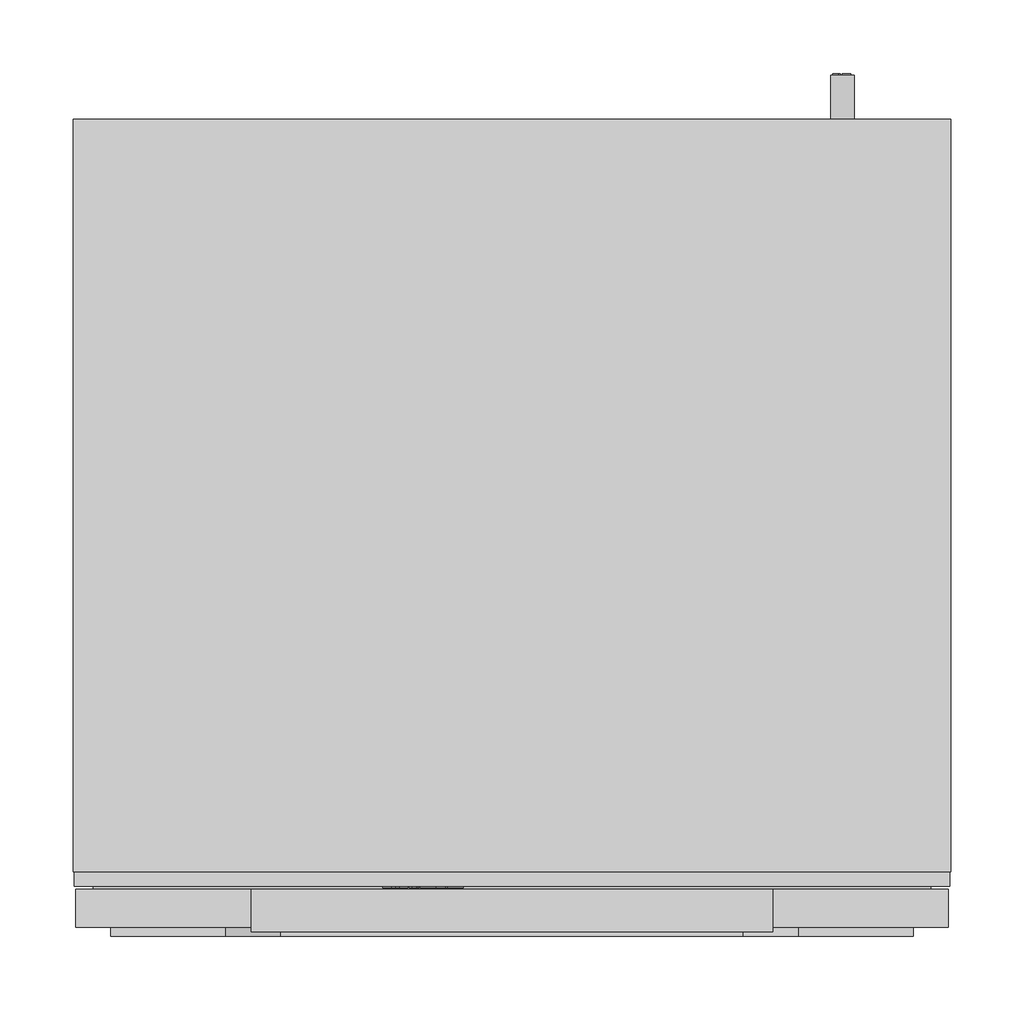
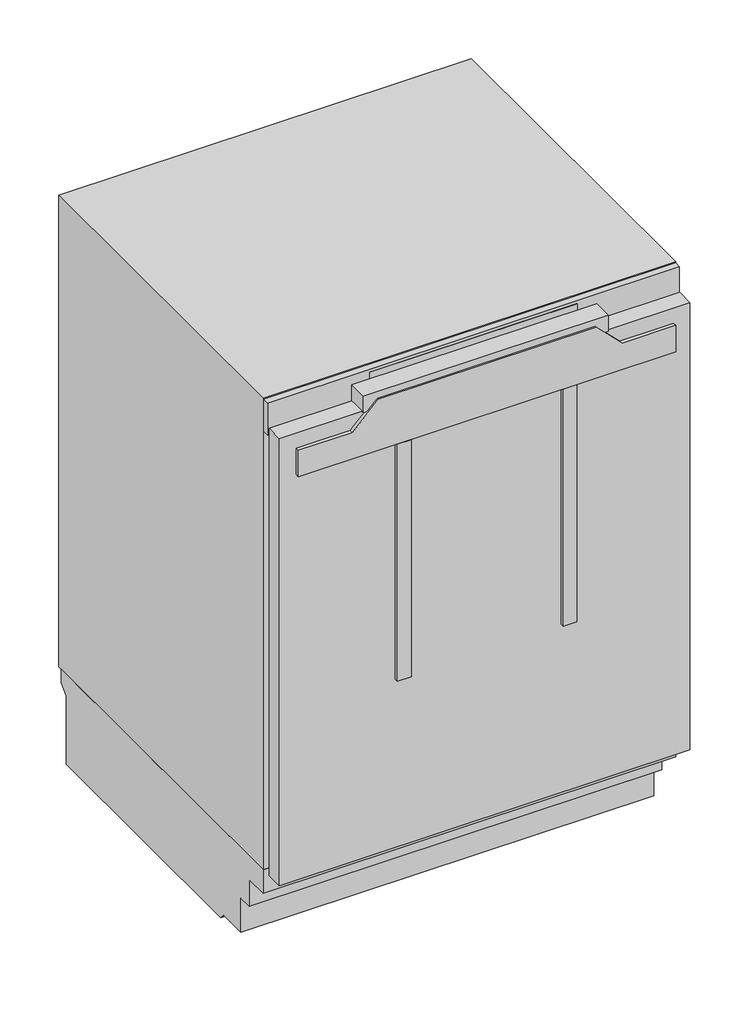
# Not in any storey: 1 proxy.
"""IFC4 building model written with IfcOpenShell, lengths in millimetres."""

import ifcopenshell
import ifcopenshell.guid

model = None  # the IFC model being written
_history = None  # IfcOwnerHistory: only IFC2X3 demands one
_inside = {}  # id of a spatial element -> (the spatial element, [elements in it])
_under = {}  # id of a project, library or spatial element -> (it, [spatial elements below it])
_declared = {}  # id of a project -> (the project, [libraries it declares])
_typed = {}  # id of a type object -> (the type object, [elements of that type])
_made_of = {}  # id of a material, layer set ... -> (it, [elements and type objects made of it])


def new_model(schema):
    """Start an empty IFC model of exactly this schema.

    Asked for "IFC4X3", IfcOpenShell would pick the latest addendum, in which some entities
    have other attributes; the version numbers below select the first issue.
    IFC2X3 requires an IfcOwnerHistory on every rooted entity: one is made here for all.
    """
    global model, _history
    if schema == "IFC4X3":
        model = ifcopenshell.file(schema_version=(4, 3, 0, 0))
    else:
        model = ifcopenshell.file(schema=schema)
    _inside.clear()
    _under.clear()
    _declared.clear()
    _typed.clear()
    _made_of.clear()
    _history = None
    if model.schema == "IFC2X3":
        org = make("IfcOrganization", Name="unknown")
        user = make(
            "IfcPersonAndOrganization",
            ThePerson=make("IfcPerson", FamilyName="unknown"),
            TheOrganization=org,
        )
        app = make(
            "IfcApplication",
            ApplicationDeveloper=org,
            Version="unknown",
            ApplicationFullName="unknown",
            ApplicationIdentifier="unknown",
        )
        _history = make(
            "IfcOwnerHistory",
            OwningUser=user,
            OwningApplication=app,
            ChangeAction="ADDED",
            CreationDate=0,
        )
    return model


def make(cls, **values):
    """One entity of the class cls with the attributes given. An attribute that is None is left unset."""
    return model.create_entity(
        cls, **{name: value for name, value in values.items() if value is not None}
    )


def rooted(cls, **values):
    """An entity with a GlobalId (a new one), such as an element, a storey or a relation."""
    return make(cls, GlobalId=ifcopenshell.guid.new(), OwnerHistory=_history, **values)


def si_unit(unit_type, name, prefix=None):
    """IfcSIUnit, for example si_unit("LENGTHUNIT", "METRE", prefix="MILLI")."""
    return make("IfcSIUnit", UnitType=unit_type, Prefix=prefix, Name=name)


def assignment(units):
    """IfcUnitAssignment: the units of a project."""
    return None if units is None else make("IfcUnitAssignment", Units=units)


def point(xyz):
    """IfcCartesianPoint."""
    return None if xyz is None else make("IfcCartesianPoint", Coordinates=xyz)


def direction(xyz):
    """IfcDirection."""
    return None if xyz is None else make("IfcDirection", DirectionRatios=xyz)


def frame(location, z_axis=None, x_axis=None):
    """IfcAxis2Placement3D, a coordinate frame: its origin and axes. An axis left out is left unset."""
    return make(
        "IfcAxis2Placement3D",
        Location=point(location),
        Axis=direction(z_axis),
        RefDirection=direction(x_axis),
    )


def frame_2d(location, x_axis=None):
    """IfcAxis2Placement2D, a coordinate frame in the plane: its origin and x axis."""
    return make(
        "IfcAxis2Placement2D", Location=point(location), RefDirection=direction(x_axis)
    )


def origin():
    """The frame at (0, 0, 0) with its axes left unset."""
    return frame((0.0, 0.0, 0.0))


def origin_with_axes():
    """The frame at (0, 0, 0) with the z axis (0, 0, 1) and the x axis (1, 0, 0) written out."""
    return frame((0.0, 0.0, 0.0), z_axis=(0.0, 0.0, 1.0), x_axis=(1.0, 0.0, 0.0))


def place(relative_to, where):
    """IfcLocalPlacement: puts the frame where relative to a parent placement (None: the world)."""
    return make(
        "IfcLocalPlacement", PlacementRelTo=relative_to, RelativePlacement=where
    )


def context(
    kind, dimensions, precision=None, world=None, true_north=None, identifier=None
):
    """IfcGeometricRepresentationContext, for example the 3D "Model" context."""
    return make(
        "IfcGeometricRepresentationContext",
        ContextIdentifier=identifier,
        ContextType=kind,
        CoordinateSpaceDimension=dimensions,
        Precision=precision,
        WorldCoordinateSystem=world,
        TrueNorth=true_north,
    )


def project(units=None, contexts=None):
    """IfcProject with its units and contexts."""
    return rooted(
        "IfcProject",
        Name="project",
        RepresentationContexts=contexts,
        UnitsInContext=assignment(units),
    )


def spatial(cls, under=None, at=None, **own):
    """A site, building, storey or space (cls), placed at a placement, below another one or the project."""
    s = rooted(cls, ObjectPlacement=at, **own)
    if under is not None:
        _under.setdefault(under.id(), (under, []))[1].append(s)
    return s


def polyline(points):
    """IfcPolyline through the points."""
    return make("IfcPolyline", Points=[point(p) for p in points])


def circle_curve(where, radius):
    """IfcCircle in the frame where."""
    return make("IfcCircle", Position=where, Radius=radius)


def ellipse_curve(where, semi_axis1, semi_axis2):
    """IfcEllipse in the frame where."""
    return make(
        "IfcEllipse", Position=where, SemiAxis1=semi_axis1, SemiAxis2=semi_axis2
    )


def trimmed(basis, trim1, trim2, sense, master):
    """IfcTrimmedCurve: the piece of a basis curve between two trims."""
    return make(
        "IfcTrimmedCurve",
        BasisCurve=basis,
        Trim1=trim1,
        Trim2=trim2,
        SenseAgreement=sense,
        MasterRepresentation=master,
    )


def segment(curve, same_sense, transition):
    """IfcCompositeCurveSegment."""
    return make(
        "IfcCompositeCurveSegment",
        Transition=transition,
        SameSense=same_sense,
        ParentCurve=curve,
    )


def composite_curve(segments, self_intersect=None):
    """IfcCompositeCurve: segments joined end to end."""
    return make("IfcCompositeCurve", Segments=segments, SelfIntersect=self_intersect)


def outline(outer, holes=None, kind="AREA"):
    """IfcArbitraryClosedProfileDef: a profile drawn as a closed curve; with holes, ...WithVoids."""
    if holes is None:
        return make("IfcArbitraryClosedProfileDef", ProfileType=kind, OuterCurve=outer)
    return make(
        "IfcArbitraryProfileDefWithVoids",
        ProfileType=kind,
        OuterCurve=outer,
        InnerCurves=holes,
    )


def extrude(swept, where, along, depth):
    """IfcExtrudedAreaSolid: the profile swept, set in the frame where, extruded along a direction by depth."""
    return make(
        "IfcExtrudedAreaSolid",
        SweptArea=swept,
        Position=where,
        ExtrudedDirection=direction(along),
        Depth=depth,
    )


def faces_of(points, faces, orient=None, outer=None):
    """IfcFace entities. A face is a list of loops; a loop is a list of indices into points, from 0.

    orient and outer hold one flag for each loop. By default every Orientation is true, the
    first loop of a face is its IfcFaceOuterBound and the others are IfcFaceBound.
    """
    made = []
    for i, loops in enumerate(faces):
        bounds = []
        for j, loop in enumerate(loops):
            is_outer = j == 0 if outer is None else outer[i][j]
            bounds.append(
                make(
                    "IfcFaceOuterBound" if is_outer else "IfcFaceBound",
                    Bound=make("IfcPolyLoop", Polygon=[points[k] for k in loop]),
                    Orientation=True if orient is None else orient[i][j],
                )
            )
        made.append(make("IfcFace", Bounds=bounds))
    return made


def faceted_brep(points, faces, orient=None, outer=None, voids=None):
    """IfcFacetedBrep: a solid bounded by flat faces; with voids (closed shells), ...WithVoids."""
    shared = [point(p) for p in points]
    hull = make("IfcClosedShell", CfsFaces=faces_of(shared, faces, orient, outer))
    if voids is None:
        return make("IfcFacetedBrep", Outer=hull)
    return make(
        "IfcFacetedBrepWithVoids",
        Outer=hull,
        Voids=[
            make(cls, CfsFaces=faces_of(shared, fs, o, b)) for cls, fs, o, b in voids
        ],
    )


def shape(context_of_items, identifier, shape_type, items):
    """IfcShapeRepresentation: the items that make up one representation, for example the "Body"."""
    return make(
        "IfcShapeRepresentation",
        ContextOfItems=context_of_items,
        RepresentationIdentifier=identifier,
        RepresentationType=shape_type,
        Items=items,
    )


def source(mapping_origin, context_of_items, identifier, shape_type, items):
    """IfcRepresentationMap: a shape defined once, which mapped items show again and again."""
    return make(
        "IfcRepresentationMap",
        MappingOrigin=mapping_origin,
        MappedRepresentation=shape(context_of_items, identifier, shape_type, items),
    )


def transform(
    local_origin,
    x_axis=None,
    y_axis=None,
    z_axis=None,
    scale=None,
    scale2=None,
    scale3=None,
    uniform=True,
):
    """IfcCartesianTransformationOperator3D, or its non-uniform kind. x_axis, y_axis, z_axis: its Axis1, 2, 3."""
    if uniform:
        return make(
            "IfcCartesianTransformationOperator3D",
            Axis1=direction(x_axis),
            Axis2=direction(y_axis),
            LocalOrigin=point(local_origin),
            Scale=scale,
            Axis3=direction(z_axis),
        )
    return make(
        "IfcCartesianTransformationOperator3DnonUniform",
        Axis1=direction(x_axis),
        Axis2=direction(y_axis),
        LocalOrigin=point(local_origin),
        Scale=scale,
        Axis3=direction(z_axis),
        Scale2=scale2,
        Scale3=scale3,
    )


def mapped(mapping_source, mapping_target):
    """IfcMappedItem: shows the shape of a source again, moved by a transform."""
    return make(
        "IfcMappedItem", MappingSource=mapping_source, MappingTarget=mapping_target
    )


def made_of(thing, what):
    """Note that an element or type object is made of a material, layer set ...; save() writes the relation."""
    if what is not None:
        _made_of.setdefault(what.id(), (what, []))[1].append(thing)
    return thing


def element(
    cls,
    number,
    at=None,
    inside=None,
    cuts=None,
    type_object=None,
    material=None,
    context=None,
    identifier="Body",
    shape_type=None,
    held_by="IfcProductDefinitionShape",
    body=None,
    shapes=None,
    **own,
):
    """One element of the class cls, such as IfcWall. Its Tag is "e" and its number.

    at: its placement. inside: the storey or other place that contains it. cuts: it is an
    opening in that element (IfcRelVoidsElement). A single representation is given by context,
    identifier, shape_type and body (its items); several are given by shapes. held_by: the class
    of the entity that holds the representations. save() writes the other relations.
    """
    e = rooted(cls, Tag="e%d" % number, ObjectPlacement=at, **own)
    if body is not None:
        shapes = [shape(context, identifier, shape_type, body)]
    if shapes is not None:
        e.Representation = make(held_by, Representations=shapes)
    if inside is not None:
        _inside.setdefault(inside.id(), (inside, []))[1].append(e)
    if cuts is not None:
        rooted(
            "IfcRelVoidsElement", RelatingBuildingElement=cuts, RelatedOpeningElement=e
        )
    if type_object is not None:
        _typed.setdefault(type_object.id(), (type_object, []))[1].append(e)
    return made_of(e, material)


def aggregate(whole, parts):
    """IfcRelAggregates: a whole, such as a stair, and the parts it consists of."""
    return rooted("IfcRelAggregates", RelatingObject=whole, RelatedObjects=parts)


def save(model, path):
    """Write the relations noted so far, then the file.

    IfcRelAggregates (storeys below a building ...), IfcRelContainedInSpatialStructure (elements
    in a storey), IfcRelDefinesByType, IfcRelAssociatesMaterial and IfcRelDeclares: one each for
    every whole, place, type object, material and project.
    """
    for whole, parts in _under.values():
        aggregate(whole, parts)
    for where, things in _inside.values():
        rooted(
            "IfcRelContainedInSpatialStructure",
            RelatedElements=things,
            RelatingStructure=where,
        )
    for kind, things in _typed.values():
        rooted("IfcRelDefinesByType", RelatedObjects=things, RelatingType=kind)
    for what, things in _made_of.values():
        rooted("IfcRelAssociatesMaterial", RelatedObjects=things, RelatingMaterial=what)
    for by, libraries in _declared.values():
        rooted("IfcRelDeclares", RelatingContext=by, RelatedDefinitions=libraries)
    model.write(path)


def plane_surface(at):
    """IfcPlane: the flat surface through the origin of the frame at, square to its z axis."""
    return make("IfcPlane", Position=at)


def cylinder_surface(at, radius):
    """IfcCylindricalSurface: all points at the distance radius from the z axis of the frame at."""
    return make("IfcCylindricalSurface", Position=at, Radius=radius)


def revolved_surface(curve, axis_point, axis_direction):
    """IfcSurfaceOfRevolution: the curve turned about the line through axis_point along axis_direction."""
    return make(
        "IfcSurfaceOfRevolution",
        SweptCurve=make("IfcArbitraryOpenProfileDef", ProfileType="CURVE", Curve=curve),
        AxisPosition=make("IfcAxis1Placement", Location=point(axis_point), Axis=direction(axis_direction)),
    )


def extruded_surface(curve, direction_of_extrusion, depth):
    """IfcSurfaceOfLinearExtrusion: the curve pushed along a direction by depth."""
    return make(
        "IfcSurfaceOfLinearExtrusion",
        SweptCurve=make("IfcArbitraryOpenProfileDef", ProfileType="CURVE", Curve=curve),
        ExtrudedDirection=direction(direction_of_extrusion),
        Depth=depth,
    )


def advanced_brep(points, edges, surfaces, faces):
    """IfcAdvancedBrep: a solid bounded by faces that lie on surfaces and meet in shared edges.

    An edge is (start, end): straight between two places in points (the first is 0);
    or (start, end, curve); or (start, end, curve, False) where it runs against its curve.
    A face is (place in surfaces, loops), or (place, loops, False) where it looks against
    its surface's normal. A loop lists edges by number (the first is 1), with a minus sign
    where the edge is run from its end to its start. The first loop is the outer one.
    """
    corners = [point(p) for p in points]
    vertices = [make("IfcVertexPoint", VertexGeometry=c) for c in corners]
    made = []
    for start, end, *more in edges:
        made.append(
            make(
                "IfcEdgeCurve",
                EdgeStart=vertices[start],
                EdgeEnd=vertices[end],
                EdgeGeometry=more[0] if more else make("IfcPolyline", Points=[corners[start], corners[end]]),
                SameSense=more[1] if len(more) > 1 else True,
            )
        )
    hull = []
    for where, loops, *sense in faces:
        bounds = []
        for j, loop in enumerate(loops):
            ring = [make("IfcOrientedEdge", EdgeElement=made[abs(k) - 1], Orientation=k > 0) for k in loop]
            bounds.append(
                make(
                    "IfcFaceOuterBound" if j == 0 else "IfcFaceBound",
                    Bound=make("IfcEdgeLoop", EdgeList=ring),
                    Orientation=True,
                )
            )
        hull.append(make("IfcAdvancedFace", Bounds=bounds, FaceSurface=surfaces[where], SameSense=sense[0] if sense else True))
    return make("IfcAdvancedBrep", Outer=make("IfcClosedShell", CfsFaces=hull))


def specialty_equipment_f4c9d7c0(model_context):
    return source(origin(), model_context, "Body", "SolidModel", [
        extrude(outline(polyline([(835.9349293, -88.017), (835.9349293, -86.928), (829.9139293, -86.928), (829.9139293, -88.017), (828.4019293, -88.017), (828.4019293, -84.057), (829.9139293, -84.057), (829.9139293, -85.137), (833.7360541, -85.137), (828.4019293, -81.114), (833.8421516, -77.073), (829.9139293, -77.073), (829.9139293, -78.18), (828.4019293, -78.18), (828.4019293, -70.998), (829.9139293, -70.998), (829.9139293, -72.141), (835.9349293, -72.141), (835.9349293, -70.998), (837.4019293, -70.998), (837.4019293, -76.479), (834.0269293, -79.107), (837.4019293, -81.744), (837.4019293, -88.017), (835.9349293, -88.017)])), frame((0.0, 33.1, 0.0), z_axis=(0.0, 1.0, 0.0), x_axis=(0.0, 0.0, 1.0)), (0.0, 0.0, 1.0), 1.0),
        extrude(outline(polyline([(835.9349293, -51.495), (835.9349293, -50.415), (829.9139293, -50.415), (829.9139293, -51.495), (828.4019293, -51.495), (828.4019293, -44.196), (829.9139293, -44.196), (829.9139293, -45.303), (837.4019293, -45.303), (837.4019293, -51.495), (835.9349293, -51.495)])), frame((0.0, 33.1, 0.0), z_axis=(0.0, 1.0, 0.0), x_axis=(0.0, 0.0, 1.0)), (0.0, 0.0, 1.0), 1.0),
        extrude(outline(polyline([(836.8709293, -67.857), (835.4129293, -67.173), (836.8349293, -64.122), (838.2929293, -64.797), (836.8709293, -67.857)])), frame((0.0, 33.1, 0.0), z_axis=(0.0, 1.0, 0.0), x_axis=(0.0, 0.0, 1.0)), (0.0, 0.0, 1.0), 1.0),
        extrude(outline(polyline([(835.2149293, -70.08), (833.6039293, -70.08), (833.6039293, -69.009), (829.9139293, -69.009), (829.9139293, -70.08), (828.4019293, -70.08), (828.4019293, -62.979), (829.9139293, -62.979), (829.9139293, -64.023), (835.2149293, -64.023), (835.2149293, -70.08)])), frame((0.0, 33.1, 0.0), z_axis=(0.0, 1.0, 0.0), x_axis=(0.0, 0.0, 1.0)), (0.0, 0.0, 1.0), 1.0),
        advanced_brep(
        [(-58.02, 33.1, 830.5349293), (-58.02, 33.1, 831.4439293), (-51.999, 33.1, 831.4439293), (-62.475, 33.1, 831.4439293), (-60.0, 33.1, 828.4019293), (-52.152, 33.1, 830.5349293), (-54.87, 33.1, 830.5349293), (-57.012, 33.1, 829.5269293), (-58.02, 33.1, 832.5959293), (-58.02, 33.1, 833.5769293), (-56.481, 33.1, 833.5769293), (-56.481, 33.1, 832.5959293), (-58.02, 34.1, 830.5349293), (-57.012, 34.1, 829.5269293), (-54.87, 34.1, 830.5349293), (-52.152, 34.1, 830.5349293), (-60.0, 34.1, 828.4019293), (-62.475, 34.1, 831.4439293), (-51.999, 34.1, 831.4439293), (-58.02, 34.1, 831.4439293), (-58.02, 34.1, 832.5959293), (-56.481, 34.1, 832.5959293), (-56.481, 34.1, 833.5769293), (-58.02, 34.1, 833.5769293)],
        [
            (0, 1),
            (1, 2),
            (2, 3, ellipse_curve(frame((-57.237, 33.1, 831.4439293), z_axis=(0.0, -1.0, 0.0), x_axis=(-1.0, 0.0, 0.0)), 5.238, 4.329)),
            (3, 4, circle_curve(frame((-58.9919509, 33.1, 831.7499293), z_axis=(0.0, -1.0, 0.0), x_axis=(0.0, 0.0, -1.0)), 3.4964649)),
            (4, 5, circle_curve(frame((-57.3418572, 33.1, 834.1259293), z_axis=(0.0, -1.0, 0.0), x_axis=(0.0, 0.0, -1.0)), 6.3110933)),
            (5, 6),
            (6, 7, circle_curve(frame((-56.5720588, 33.1, 831.3719293), z_axis=(0.0, 1.0, 0.0), x_axis=(0.0, 0.0, -1.0)), 1.896727)),
            (7, 0, circle_curve(frame((-57.012, 33.1, 830.5349293), z_axis=(0.0, 1.0, 0.0), x_axis=(0.0, 0.0, -1.0)), 1.008)),
            (8, 9),
            (9, 10, circle_curve(frame((-57.2505, 33.1, 833.5769293), z_axis=(0.0, 1.0, 0.0), x_axis=(0.0, 0.0, -1.0)), 0.7695)),
            (10, 11),
            (11, 8),
            (12, 13, circle_curve(frame((-57.012, 34.1, 830.5349293), z_axis=(0.0, -1.0, 0.0), x_axis=(0.0, 0.0, -1.0)), 1.008)),
            (13, 14, circle_curve(frame((-56.5720588, 34.1, 831.3719293), z_axis=(0.0, -1.0, 0.0), x_axis=(0.0, 0.0, -1.0)), 1.896727)),
            (14, 15),
            (15, 16, circle_curve(frame((-57.3418572, 34.1, 834.1259293), z_axis=(0.0, 1.0, 0.0), x_axis=(0.0, 0.0, -1.0)), 6.3110933)),
            (16, 17, circle_curve(frame((-58.9919509, 34.1, 831.7499293), z_axis=(0.0, 1.0, 0.0), x_axis=(0.0, 0.0, -1.0)), 3.4964649)),
            (17, 18, ellipse_curve(frame((-57.237, 34.1, 831.4439293), z_axis=(0.0, 1.0, 0.0), x_axis=(-1.0, 0.0, 0.0)), 5.238, 4.329)),
            (18, 19),
            (19, 12),
            (20, 21),
            (21, 22),
            (22, 23, circle_curve(frame((-57.2505, 34.1, 833.5769293), z_axis=(0.0, -1.0, 0.0), x_axis=(0.0, 0.0, -1.0)), 0.7695)),
            (23, 20),
            (0, 12),
            (19, 1),
            (18, 2),
            (5, 15),
            (14, 6),
            (17, 3),
            (13, 7),
            (16, 4),
            (8, 20),
            (23, 9),
            (22, 10),
            (21, 11),
        ],
        [
            plane_surface(frame((-58.02, 33.1, 831.4439293), z_axis=(0.0, -1.0, 0.0), x_axis=(0.0, 0.0, 1.0))),
            plane_surface(frame((-58.02, 34.1, 831.4439293), z_axis=(0.0, 1.0, 0.0), x_axis=(0.0, 0.0, -1.0))),
            plane_surface(frame((-58.02, 33.1, 830.5349293), z_axis=(1.0, 0.0, 0.0), x_axis=(0.0, 1.0, 0.0))),
            plane_surface(frame((-58.02, 33.1, 831.4439293), z_axis=(0.0, 0.0, -1.0), x_axis=(0.0, 1.0, 0.0))),
            plane_surface(frame((-52.152, 33.1, 830.5349293), z_axis=(0.0, 0.0, 1.0), x_axis=(0.0, 1.0, 0.0))),
            extruded_surface(trimmed(ellipse_curve(frame((-57.237, 35.1, 831.4439293), z_axis=(0.0, -1.0, 0.0), x_axis=(-1.0, 0.0, 0.0)), 5.238, 4.329), [point((-51.999, 35.1, 831.4439293))], [point((-62.475, 35.1, 831.4439293))], True, "CARTESIAN"), (0.0, -1.0, 0.0), 1.0),
            revolved_surface(polyline([(-56.5720588, 34.1, 829.4752023), (-56.5720588, 33.1, 829.4752023)]), (-56.5720588, 34.1, 831.3719293), (0.0, 1.0, 0.0)),
            revolved_surface(polyline([(-57.012, 34.1, 829.5269293), (-57.012, 33.1, 829.5269293)]), (-57.012, 34.1, 830.5349293), (0.0, 1.0, 0.0)),
            cylinder_surface(frame((-58.9919509, 34.1, 831.7499293), z_axis=(0.0, -1.0, 0.0), x_axis=(0.0, 0.0, -1.0)), 3.4964649),
            cylinder_surface(frame((-57.3418572, 34.1, 834.1259293), z_axis=(0.0, -1.0, 0.0), x_axis=(0.0, 0.0, -1.0)), 6.3110933),
            plane_surface(frame((-58.02, 33.1, 832.5959293), z_axis=(1.0, 0.0, 0.0), x_axis=(0.0, 1.0, 0.0))),
            revolved_surface(polyline([(-57.2505, 34.1, 832.8074293), (-57.2505, 33.1, 832.8074293)]), (-57.2505, 34.1, 833.5769293), (0.0, 1.0, 0.0)),
            plane_surface(frame((-56.481, 33.1, 833.5769293), z_axis=(-1.0, 0.0, 0.0), x_axis=(0.0, 1.0, 0.0))),
            plane_surface(frame((-56.481, 33.1, 832.5959293), z_axis=(0.0, 0.0, 1.0), x_axis=(0.0, 1.0, 0.0))),
        ],
        [
            (0, [[1, 2, 3, 4, 5, 6, 7, 8], [9, 10, 11, 12]]),
            (1, [[13, 14, 15, 16, 17, 18, 19, 20], [21, 22, 23, 24]]),
            (2, [[-1, 25, -20, 26]]),
            (3, [[-2, -26, -19, 27]]),
            (4, [[-6, 28, -15, 29]]),
            (5, [[-3, -27, -18, 30]]),
            (6, [[-7, -29, -14, 31]]),
            (7, [[-8, -31, -13, -25]]),
            (8, [[-4, -30, -17, 32]]),
            (9, [[-5, -32, -16, -28]]),
            (10, [[-9, 33, -24, 34]]),
            (11, [[-10, -34, -23, 35]]),
            (12, [[-11, -35, -22, 36]]),
            (13, [[-12, -36, -21, -33]]),
        ],
    ),
        advanced_brep(
        [(-39.237, 33.1, 830.5349293), (-39.237, 33.1, 831.4439293), (-33.216, 33.1, 831.4439293), (-43.692, 33.1, 831.4439293), (-41.217, 33.1, 828.4019293), (-33.369, 33.1, 830.5349293), (-36.087, 33.1, 830.5349293), (-38.229, 33.1, 829.5269293), (-39.237, 33.1, 832.5959293), (-39.237, 33.1, 833.5769293), (-37.698, 33.1, 833.5769293), (-37.698, 33.1, 832.5959293), (-39.237, 34.1, 830.5349293), (-38.229, 34.1, 829.5269293), (-36.087, 34.1, 830.5349293), (-33.369, 34.1, 830.5349293), (-41.217, 34.1, 828.4019293), (-43.692, 34.1, 831.4439293), (-33.216, 34.1, 831.4439293), (-39.237, 34.1, 831.4439293), (-39.237, 34.1, 832.5959293), (-37.698, 34.1, 832.5959293), (-37.698, 34.1, 833.5769293), (-39.237, 34.1, 833.5769293)],
        [
            (0, 1),
            (1, 2),
            (2, 3, ellipse_curve(frame((-38.454, 33.1, 831.4439293), z_axis=(0.0, -1.0, 0.0), x_axis=(-1.0, 0.0, 0.0)), 5.238, 4.329)),
            (3, 4, circle_curve(frame((-40.2089509, 33.1, 831.7499293), z_axis=(0.0, -1.0, 0.0), x_axis=(0.0, 0.0, -1.0)), 3.4964649)),
            (4, 5, circle_curve(frame((-38.5588572, 33.1, 834.1259293), z_axis=(0.0, -1.0, 0.0), x_axis=(0.0, 0.0, -1.0)), 6.3110933)),
            (5, 6),
            (6, 7, circle_curve(frame((-37.7890588, 33.1, 831.3719293), z_axis=(0.0, 1.0, 0.0), x_axis=(0.0, 0.0, -1.0)), 1.896727)),
            (7, 0, circle_curve(frame((-38.229, 33.1, 830.5349293), z_axis=(0.0, 1.0, 0.0), x_axis=(0.0, 0.0, -1.0)), 1.008)),
            (8, 9),
            (9, 10, circle_curve(frame((-38.4675, 33.1, 833.5769293), z_axis=(0.0, 1.0, 0.0), x_axis=(0.0, 0.0, -1.0)), 0.7695)),
            (10, 11),
            (11, 8),
            (12, 13, circle_curve(frame((-38.229, 34.1, 830.5349293), z_axis=(0.0, -1.0, 0.0), x_axis=(0.0, 0.0, -1.0)), 1.008)),
            (13, 14, circle_curve(frame((-37.7890588, 34.1, 831.3719293), z_axis=(0.0, -1.0, 0.0), x_axis=(0.0, 0.0, -1.0)), 1.896727)),
            (14, 15),
            (15, 16, circle_curve(frame((-38.5588572, 34.1, 834.1259293), z_axis=(0.0, 1.0, 0.0), x_axis=(0.0, 0.0, -1.0)), 6.3110933)),
            (16, 17, circle_curve(frame((-40.2089509, 34.1, 831.7499293), z_axis=(0.0, 1.0, 0.0), x_axis=(0.0, 0.0, -1.0)), 3.4964649)),
            (17, 18, ellipse_curve(frame((-38.454, 34.1, 831.4439293), z_axis=(0.0, 1.0, 0.0), x_axis=(-1.0, 0.0, 0.0)), 5.238, 4.329)),
            (18, 19),
            (19, 12),
            (20, 21),
            (21, 22),
            (22, 23, circle_curve(frame((-38.4675, 34.1, 833.5769293), z_axis=(0.0, -1.0, 0.0), x_axis=(0.0, 0.0, -1.0)), 0.7695)),
            (23, 20),
            (0, 12),
            (19, 1),
            (18, 2),
            (5, 15),
            (14, 6),
            (17, 3),
            (13, 7),
            (16, 4),
            (8, 20),
            (23, 9),
            (22, 10),
            (21, 11),
        ],
        [
            plane_surface(frame((-39.237, 33.1, 831.4439293), z_axis=(0.0, -1.0, 0.0), x_axis=(0.0, 0.0, 1.0))),
            plane_surface(frame((-39.237, 34.1, 831.4439293), z_axis=(0.0, 1.0, 0.0), x_axis=(0.0, 0.0, -1.0))),
            plane_surface(frame((-39.237, 33.1, 830.5349293), z_axis=(1.0, 0.0, 0.0), x_axis=(0.0, 1.0, 0.0))),
            plane_surface(frame((-39.237, 33.1, 831.4439293), z_axis=(0.0, 0.0, -1.0), x_axis=(0.0, 1.0, 0.0))),
            plane_surface(frame((-33.369, 33.1, 830.5349293), z_axis=(0.0, 0.0, 1.0), x_axis=(0.0, 1.0, 0.0))),
            extruded_surface(trimmed(ellipse_curve(frame((-38.454, 35.1, 831.4439293), z_axis=(0.0, -1.0, 0.0), x_axis=(-1.0, 0.0, 0.0)), 5.238, 4.329), [point((-33.216, 35.1, 831.4439293))], [point((-43.692, 35.1, 831.4439293))], True, "CARTESIAN"), (0.0, -1.0, 0.0), 1.0),
            revolved_surface(polyline([(-37.7890588, 34.1, 829.4752023), (-37.7890588, 33.1, 829.4752023)]), (-37.7890588, 34.1, 831.3719293), (0.0, 1.0, 0.0)),
            revolved_surface(polyline([(-38.229, 34.1, 829.5269293), (-38.229, 33.1, 829.5269293)]), (-38.229, 34.1, 830.5349293), (0.0, 1.0, 0.0)),
            cylinder_surface(frame((-40.2089509, 34.1, 831.7499293), z_axis=(0.0, -1.0, 0.0), x_axis=(0.0, 0.0, -1.0)), 3.4964649),
            cylinder_surface(frame((-38.5588572, 34.1, 834.1259293), z_axis=(0.0, -1.0, 0.0), x_axis=(0.0, 0.0, -1.0)), 6.3110933),
            plane_surface(frame((-39.237, 33.1, 832.5959293), z_axis=(1.0, 0.0, 0.0), x_axis=(0.0, 1.0, 0.0))),
            revolved_surface(polyline([(-38.4675, 34.1, 832.8074293), (-38.4675, 33.1, 832.8074293)]), (-38.4675, 34.1, 833.5769293), (0.0, 1.0, 0.0)),
            plane_surface(frame((-37.698, 33.1, 833.5769293), z_axis=(-1.0, 0.0, 0.0), x_axis=(0.0, 1.0, 0.0))),
            plane_surface(frame((-37.698, 33.1, 832.5959293), z_axis=(0.0, 0.0, 1.0), x_axis=(0.0, 1.0, 0.0))),
        ],
        [
            (0, [[1, 2, 3, 4, 5, 6, 7, 8], [9, 10, 11, 12]]),
            (1, [[13, 14, 15, 16, 17, 18, 19, 20], [21, 22, 23, 24]]),
            (2, [[-1, 25, -20, 26]]),
            (3, [[-2, -26, -19, 27]]),
            (4, [[-6, 28, -15, 29]]),
            (5, [[-3, -27, -18, 30]]),
            (6, [[-7, -29, -14, 31]]),
            (7, [[-8, -31, -13, -25]]),
            (8, [[-4, -30, -17, 32]]),
            (9, [[-5, -32, -16, -28]]),
            (10, [[-9, 33, -24, 34]]),
            (11, [[-10, -34, -23, 35]]),
            (12, [[-11, -35, -22, 36]]),
            (13, [[-12, -36, -21, -33]]),
        ],
    ),
        extrude(outline(polyline([(150.0048218, 34.0937347), (-150.0048218, 34.0937347), (-150.0048218, 44.0), (150.0048218, 44.0), (150.0048218, 34.0937347)])), frame((0.0, 0.0, 813.2139282), z_axis=(0.0, 0.0, 1.0), x_axis=(1.0, 0.0, 0.0)), (0.0, 0.0, 1.0), 39.9850464),
        extrude(outline(polyline([(857.6989746, 298.0), (857.6989746, -298.0), (808.7051238, -298.0), (808.7051238, 298.0), (857.6989746, 298.0)]), holes=[polyline([(853.1989746, -150.0048218), (853.1989746, 150.0048218), (813.2139282, 150.0048218), (813.2139282, -150.0048218), (853.1989746, -150.0048218)])]), frame((0.0, 34.0937347, 0.0), z_axis=(0.0, 1.0, 0.0), x_axis=(0.0, 0.0, 1.0)), (0.0, 0.0, 1.0), 9.9062653),
        faceted_brep([(-298.5, 550.1, 137.8999939), (-298.5, 550.1, 117.6051112), (-298.5, 537.6, 105.1051112), (-298.5, 537.6, 0.0), (-298.5, 150.9682763, 0.0), (-298.5, 142.6506717, 8.3176046), (-298.5, 100.0, 8.3176046), (-298.5, 100.0, 60.7725754), (-298.5, 79.0216446, 60.7725754), (-298.5, 79.0216446, 101.8184894), (-298.5, 44.0, 101.8184894), (-298.5, 44.0, 137.8999939), (298.5, 550.1, 137.8999939), (298.5, 44.0, 137.8999939), (298.5, 44.0, 101.8184894), (298.5, 79.0216446, 101.8184894), (298.5, 79.0216446, 60.7725754), (298.5, 100.0, 60.7725754), (298.5, 100.0, 8.3176046), (298.5, 142.6506717, 8.3176046), (298.5, 150.9682763, 0.0), (298.5, 537.6, 0.0), (298.5, 537.6, 105.1051112), (298.5, 550.1, 117.6051112), (296.7000122, 463.8596389, 0.0), (256.5957336, 463.8596389, 0.0), (256.5957336, 399.1975098, 0.0), (296.7000122, 399.1975098, 0.0), (-296.7000122, 463.8596389, 0.0), (-296.7000122, 399.1975098, 0.0), (-256.5957336, 399.1975098, 0.0), (-256.5957336, 463.8596389, 0.0), (296.7000122, 463.8596389, 8.7371401), (296.7000122, 399.1975098, 8.7371401), (256.5957336, 399.1975098, 8.7371401), (256.5957336, 463.8596389, 8.7371401), (-296.7000122, 463.8596389, 8.7371401), (-256.5957336, 463.8596389, 8.7371401), (-256.5957336, 399.1975098, 8.7371401), (-296.7000122, 399.1975098, 8.7371401)], [[[0, 1, 2, 3, 4, 5, 6, 7, 8, 9, 10, 11]], [[12, 13, 14, 15, 16, 17, 18, 19, 20, 21, 22, 23]], [[0, 11, 13, 12]], [[11, 10, 14, 13]], [[10, 9, 15, 14]], [[9, 8, 16, 15]], [[8, 7, 17, 16]], [[7, 6, 18, 17]], [[6, 5, 19, 18]], [[5, 4, 20, 19]], [[4, 3, 21, 20], [24, 25, 26, 27], [28, 29, 30, 31]], [[3, 2, 22, 21]], [[2, 1, 23, 22]], [[1, 0, 12, 23]], [[32, 33, 34, 35]], [[36, 37, 38, 39]], [[32, 35, 25, 24]], [[35, 34, 26, 25]], [[34, 33, 27, 26]], [[33, 32, 24, 27]], [[36, 39, 29, 28]], [[39, 38, 30, 29]], [[38, 37, 31, 30]], [[37, 36, 28, 31]]]),
        faceted_brep([(298.5, 44.0, 859.0), (298.5, 44.0, 137.8999939), (298.5, 556.2, 137.8999939), (298.5, 556.2, 859.0), (-298.5, 44.0, 859.0), (-298.5, 556.2, 859.0), (-298.5, 556.2, 137.8999939), (-298.5, 44.0, 137.8999939), (263.0, 44.0, 759.0), (263.0, 44.0, 160.0), (-263.0, 44.0, 160.0), (-263.0, 44.0, 759.0), (263.0, 510.8638012, 160.0), (263.0, 510.8638012, 759.0), (-263.0, 510.8638012, 759.0), (-263.0, 510.8638012, 160.0)], [[[0, 1, 2, 3]], [[4, 5, 6, 7]], [[1, 0, 4, 7], [8, 9, 10, 11]], [[2, 1, 7, 6]], [[3, 2, 6, 5]], [[0, 3, 5, 4]], [[12, 13, 14, 15]], [[13, 12, 9, 8]], [[14, 13, 8, 11]], [[15, 14, 11, 10]], [[12, 15, 10, 9]]]),
        extrude(outline(polyline([(263.0, 510.8638012), (263.0, 339.3), (-263.0, 339.3), (-263.0, 510.8638012), (263.0, 510.8638012)])), frame((0.0, 0.0, 160.0), z_axis=(0.0, 0.0, 1.0), x_axis=(1.0, 0.0, 0.0)), (0.0, 0.0, 1.0), 61.8999939),
        extrude(outline(composite_curve([segment(trimmed(circle_curve(frame_2d((-270.8532135, 135.87603)), 15.7049948), [point((-286.5582083, 135.87603))], [point((-255.1482187, 135.87603))], False, "CARTESIAN"), True, "CONTINUOUS"), segment(trimmed(circle_curve(frame_2d((-270.8532135, 135.87603)), 15.7049948), [point((-255.1482187, 135.87603))], [point((-286.5582083, 135.87603))], False, "CARTESIAN"), True, "CONTINUOUS")], self_intersect=False)), origin_with_axes(), (0.0, 0.0, 1.0), 8.3176046),
        extrude(outline(composite_curve([segment(trimmed(circle_curve(frame_2d((270.8532135, 135.87603)), 15.7049948), [point((286.5582083, 135.87603))], [point((255.1482187, 135.87603))], False, "CARTESIAN"), True, "CONTINUOUS"), segment(trimmed(circle_curve(frame_2d((270.8532135, 135.87603)), 15.7049948), [point((255.1482187, 135.87603))], [point((286.5582083, 135.87603))], False, "CARTESIAN"), True, "CONTINUOUS")], self_intersect=False)), origin_with_axes(), (0.0, 0.0, 1.0), 8.3176046),
        extrude(outline(composite_curve([segment(trimmed(circle_curve(frame_2d((-275.822369, 437.7385329)), 16.0), [point((-291.822369, 437.7385329))], [point((-259.822369, 437.7385329))], False, "CARTESIAN"), True, "CONTINUOUS"), segment(trimmed(circle_curve(frame_2d((-275.822369, 437.7385329)), 16.0), [point((-259.822369, 437.7385329))], [point((-291.822369, 437.7385329))], False, "CARTESIAN"), True, "CONTINUOUS")], self_intersect=False)), origin_with_axes(), (0.0, 0.0, 1.0), 8.3176046),
        extrude(outline(composite_curve([segment(trimmed(circle_curve(frame_2d((275.822369, 437.7385329)), 16.0), [point((259.822369, 437.7385329))], [point((291.822369, 437.7385329))], False, "CARTESIAN"), True, "CONTINUOUS"), segment(trimmed(circle_curve(frame_2d((275.822369, 437.7385329)), 16.0), [point((291.822369, 437.7385329))], [point((259.822369, 437.7385329))], False, "CARTESIAN"), True, "CONTINUOUS")], self_intersect=False)), origin_with_axes(), (0.0, 0.0, 1.0), 8.3176046),
        extrude(outline(composite_curve([segment(trimmed(circle_curve(frame_2d((144.2460785, 224.8152695)), 8.0), [point((144.2460785, 216.8152695))], [point((144.2460785, 232.8152695))], False, "CARTESIAN"), True, "CONTINUOUS"), segment(trimmed(circle_curve(frame_2d((144.2460785, 224.8152695)), 8.0), [point((144.2460785, 232.8152695))], [point((144.2460785, 216.8152695))], False, "CARTESIAN"), True, "CONTINUOUS")], self_intersect=False)), frame((0.0, 556.2, 0.0), z_axis=(0.0, 1.0, 0.0), x_axis=(0.0, 0.0, 1.0)), (0.0, 0.0, 1.0), 30.0),
        extrude(outline(polyline([(140.2460785, 230.7170777), (148.2825833, 230.7170777), (148.2825833, 224.9408399), (147.2780202, 224.9408399), (147.2780202, 229.7125146), (144.8921828, 229.7125146), (144.8921828, 225.1919806), (143.8876197, 225.1919806), (143.8876197, 229.7125146), (141.2506416, 229.7125146), (141.2506416, 224.8152695), (140.2460785, 224.8152695), (140.2460785, 230.7170777)])), frame((0.0, 586.2, 0.0), z_axis=(0.0, 1.0, 0.0), x_axis=(0.0, 0.0, 1.0)), (0.0, 0.0, 1.0), 1.0),
        extrude(outline(polyline([(140.2460785, 223.3084248), (148.2825833, 223.3084248), (148.2825833, 222.3038617), (141.2506416, 222.3038617), (141.2506416, 218.2856093), (140.2460785, 218.2856093), (140.2460785, 223.3084248)])), frame((0.0, 586.2, 0.0), z_axis=(0.0, 1.0, 0.0), x_axis=(0.0, 0.0, 1.0)), (0.0, 0.0, 1.0), 1.0),
        extrude(outline(polyline([(297.0, 6.0), (-297.0, 6.0), (-297.0, 32.0), (297.0, 32.0), (297.0, 6.0)])), frame((0.0, 0.0, 136.0), z_axis=(0.0, 0.0, 1.0), x_axis=(1.0, 0.0, 0.0)), (0.0, 0.0, 1.0), 684.0),
        extrude(outline(polyline([(285.0, 44.0), (285.0, 32.0), (-285.0, 32.0), (-285.0, 44.0), (285.0, 44.0)])), frame((0.0, 0.0, 148.5030441), z_axis=(0.0, 0.0, 1.0), x_axis=(1.0, 0.0, 0.0)), (0.0, 0.0, 1.0), 655.9969559),
        extrude(outline(polyline([(844.6210938, 177.3252429), (844.6210938, -177.3251393), (820.0, -177.3252429), (820.0, 177.3252429), (844.6210938, 177.3252429)])), frame((0.0, 3.0, 0.0), z_axis=(0.0, 1.0, 0.0), x_axis=(0.0, 0.0, 1.0)), (0.0, 0.0, 1.0), 29.0),
        extrude(outline(polyline([(797.315066, -195.1876874), (797.315066, -272.9755319), (756.8499888, -272.9755319), (756.8499888, 272.9755319), (797.315066, 272.9755319), (797.315066, 195.1876874), (834.938205, 157.5645484), (834.938205, -157.5645484), (797.315066, -195.1876874)])), frame((0.0, 0.0, 0.0), z_axis=(0.0, 1.0, 0.0), x_axis=(0.0, 0.0, 1.0)), (0.0, 0.0, 1.0), 6.0),
        extrude(outline(polyline([(-110.0, 0.0), (-130.0, 0.0), (-130.0, 6.0), (-110.0, 6.0), (-110.0, 0.0)])), frame((0.0, 0.0, 394.1054382), z_axis=(0.0, 0.0, 1.0), x_axis=(1.0, 0.0, 0.0)), (0.0, 0.0, 1.0), 362.7445505),
        extrude(outline(polyline([(130.0, 0.0), (110.0, 0.0), (110.0, 6.0), (130.0, 6.0), (130.0, 0.0)])), frame((0.0, 0.0, 394.1054382), z_axis=(0.0, 0.0, 1.0), x_axis=(1.0, 0.0, 0.0)), (0.0, 0.0, 1.0), 362.7445505),
    ])


model = new_model("IFC4")

# Units and contexts
model_context = context("Model", 3, world=origin())
ifc_project = project(units=[si_unit("LENGTHUNIT", "METRE", prefix="MILLI")], contexts=[model_context])

# Site, building
site = spatial("IfcSite", under=ifc_project)
building = spatial("IfcBuilding", under=site)

# Proxy
placement = place(None, origin())
specialty_equipment_shape = specialty_equipment_f4c9d7c0(model_context)
element("IfcBuildingElementProxy", 1, Name="12519150_EU1_KU7030D : 36703010_EU1_12519150_KU7030D", ObjectType="12519150_EU1_KU7030D : 36703010_EU1_12519150_KU7030D", at=placement, inside=building, context=model_context, shape_type="MappedRepresentation", body=[
    mapped(specialty_equipment_shape, transform((0.0, 0.0, 0.0), x_axis=(1.0, 0.0, 0.0), y_axis=(0.0, 1.0, 0.0), z_axis=(0.0, 0.0, 1.0))),
])

save(model, "model.ifc")
